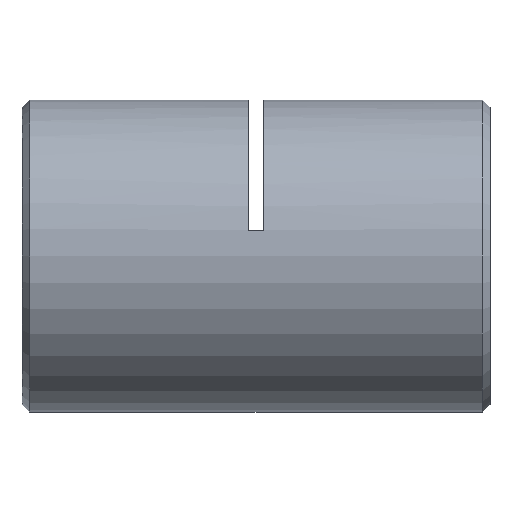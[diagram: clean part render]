
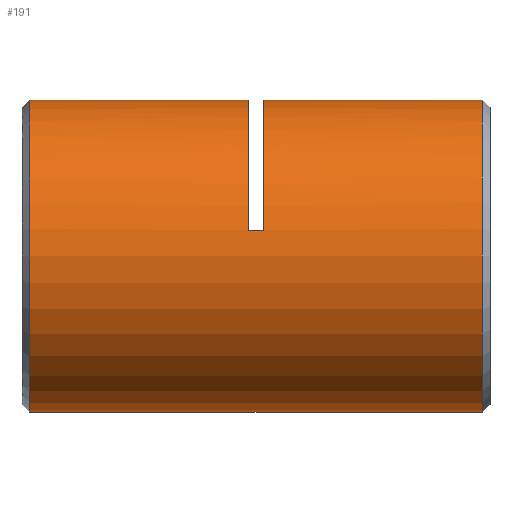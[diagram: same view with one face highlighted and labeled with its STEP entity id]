
A CAD part, left-side view. The second image highlights one B-rep face of the part: STEP entity #191.
In plain terms, the highlighted cylindrical face has radius 10 mm (diameter 20 mm), a partial arc.
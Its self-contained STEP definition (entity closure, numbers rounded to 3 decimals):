
#6 = CIRCLE ( 'NONE', #2500, 10. ) ;
#37 = DIRECTION ( 'NONE',  ( 0., 0., 1. ) ) ;
#148 = EDGE_CURVE ( 'NONE', #5320, #5351, #3368, .T. ) ;
#151 = VECTOR ( 'NONE', #2300, 1000. ) ;
#175 = ORIENTED_EDGE ( 'NONE', *, *, #3543, .F. ) ;
#191 = ADVANCED_FACE ( 'NONE', ( #2233 ), #2031, .T. ) ;
#277 = LINE ( 'NONE', #1820, #2761 ) ;
#278 = DIRECTION ( 'NONE',  ( 0., 0., 1. ) ) ;
#280 = ORIENTED_EDGE ( 'NONE', *, *, #148, .T. ) ;
#305 = DIRECTION ( 'NONE',  ( 0., 1., 0. ) ) ;
#372 = CARTESIAN_POINT ( 'NONE',  ( 0., 0., 10. ) ) ;
#503 = LINE ( 'NONE', #932, #151 ) ;
#619 = DIRECTION ( 'NONE',  ( 0., 0., 1. ) ) ;
#678 = CARTESIAN_POINT ( 'NONE',  ( 0., 15.75, 10. ) ) ;
#772 = EDGE_CURVE ( 'NONE', #1473, #1967, #3217, .T. ) ;
#822 = VERTEX_POINT ( 'NONE', #2175 ) ;
#932 = CARTESIAN_POINT ( 'NONE',  ( 0., 0., 10. ) ) ;
#974 = CARTESIAN_POINT ( 'NONE',  ( 0., 14.75, 0. ) ) ;
#996 = ORIENTED_EDGE ( 'NONE', *, *, #5578, .F. ) ;
#1014 = DIRECTION ( 'NONE',  ( 0., 0., 1. ) ) ;
#1045 = DIRECTION ( 'NONE',  ( 0., 1., 0. ) ) ;
#1159 = CARTESIAN_POINT ( 'NONE',  ( 0., 0., 0. ) ) ;
#1176 = DIRECTION ( 'NONE',  ( 0., 1., 0. ) ) ;
#1195 = DIRECTION ( 'NONE',  ( 0., -1., 0. ) ) ;
#1302 = VECTOR ( 'NONE', #4301, 1000. ) ;
#1352 = EDGE_LOOP ( 'NONE', ( #175, #5718, #5526, #996, #280, #4766, #2342, #5391 ) ) ;
#1473 = VERTEX_POINT ( 'NONE', #1493 ) ;
#1475 = AXIS2_PLACEMENT_3D ( 'NONE', #974, #1045, #619 ) ;
#1493 = CARTESIAN_POINT ( 'NONE',  ( 0., 29.75, 10. ) ) ;
#1546 = VERTEX_POINT ( 'NONE', #678 ) ;
#1788 = EDGE_CURVE ( 'NONE', #3772, #5531, #503, .T. ) ;
#1820 = CARTESIAN_POINT ( 'NONE',  ( 0., 0., -10. ) ) ;
#1822 = CARTESIAN_POINT ( 'NONE',  ( 0., 14.75, 10. ) ) ;
#1824 = EDGE_CURVE ( 'NONE', #822, #3772, #5580, .T. ) ;
#1967 = VERTEX_POINT ( 'NONE', #4619 ) ;
#2031 = CYLINDRICAL_SURFACE ( 'NONE', #2804, 10. ) ;
#2162 = CARTESIAN_POINT ( 'NONE',  ( -9.86, 14.75, 1.667 ) ) ;
#2175 = CARTESIAN_POINT ( 'NONE',  ( 0., 0.75, -10. ) ) ;
#2233 = FACE_OUTER_BOUND ( 'NONE', #1352, .T. ) ;
#2300 = DIRECTION ( 'NONE',  ( 0., 1., 0. ) ) ;
#2342 = ORIENTED_EDGE ( 'NONE', *, *, #2750, .T. ) ;
#2500 = AXIS2_PLACEMENT_3D ( 'NONE', #3711, #5474, #1014 ) ;
#2704 = DIRECTION ( 'NONE',  ( 0., 1., 0. ) ) ;
#2750 = EDGE_CURVE ( 'NONE', #1546, #1473, #3548, .T. ) ;
#2761 = VECTOR ( 'NONE', #5421, 1000. ) ;
#2804 = AXIS2_PLACEMENT_3D ( 'NONE', #1159, #305, #278 ) ;
#3206 = CIRCLE ( 'NONE', #1475, 10. ) ;
#3217 = CIRCLE ( 'NONE', #4613, 10. ) ;
#3244 = AXIS2_PLACEMENT_3D ( 'NONE', #4491, #2704, #37 ) ;
#3270 = VECTOR ( 'NONE', #1176, 1000. ) ;
#3337 = CARTESIAN_POINT ( 'NONE',  ( 0., 0.75, 10. ) ) ;
#3368 = LINE ( 'NONE', #3488, #1302 ) ;
#3445 = DIRECTION ( 'NONE',  ( 0., 0., -1. ) ) ;
#3457 = CARTESIAN_POINT ( 'NONE',  ( 0., 29.75, 0. ) ) ;
#3488 = CARTESIAN_POINT ( 'NONE',  ( -9.86, 15.25, 1.667 ) ) ;
#3543 = EDGE_CURVE ( 'NONE', #822, #1967, #277, .T. ) ;
#3548 = LINE ( 'NONE', #372, #3270 ) ;
#3711 = CARTESIAN_POINT ( 'NONE',  ( 0., 15.75, 0. ) ) ;
#3772 = VERTEX_POINT ( 'NONE', #3337 ) ;
#4301 = DIRECTION ( 'NONE',  ( 0., 1., 0. ) ) ;
#4491 = CARTESIAN_POINT ( 'NONE',  ( 0., 0.75, 0. ) ) ;
#4613 = AXIS2_PLACEMENT_3D ( 'NONE', #3457, #1195, #3445 ) ;
#4619 = CARTESIAN_POINT ( 'NONE',  ( 0., 29.75, -10. ) ) ;
#4662 = EDGE_CURVE ( 'NONE', #5351, #1546, #6, .T. ) ;
#4766 = ORIENTED_EDGE ( 'NONE', *, *, #4662, .T. ) ;
#4885 = CARTESIAN_POINT ( 'NONE',  ( -9.86, 15.75, 1.667 ) ) ;
#5320 = VERTEX_POINT ( 'NONE', #2162 ) ;
#5351 = VERTEX_POINT ( 'NONE', #4885 ) ;
#5391 = ORIENTED_EDGE ( 'NONE', *, *, #772, .T. ) ;
#5421 = DIRECTION ( 'NONE',  ( 0., 1., 0. ) ) ;
#5474 = DIRECTION ( 'NONE',  ( 0., 1., 0. ) ) ;
#5526 = ORIENTED_EDGE ( 'NONE', *, *, #1788, .T. ) ;
#5531 = VERTEX_POINT ( 'NONE', #1822 ) ;
#5578 = EDGE_CURVE ( 'NONE', #5320, #5531, #3206, .T. ) ;
#5580 = CIRCLE ( 'NONE', #3244, 10. ) ;
#5718 = ORIENTED_EDGE ( 'NONE', *, *, #1824, .T. ) ;
